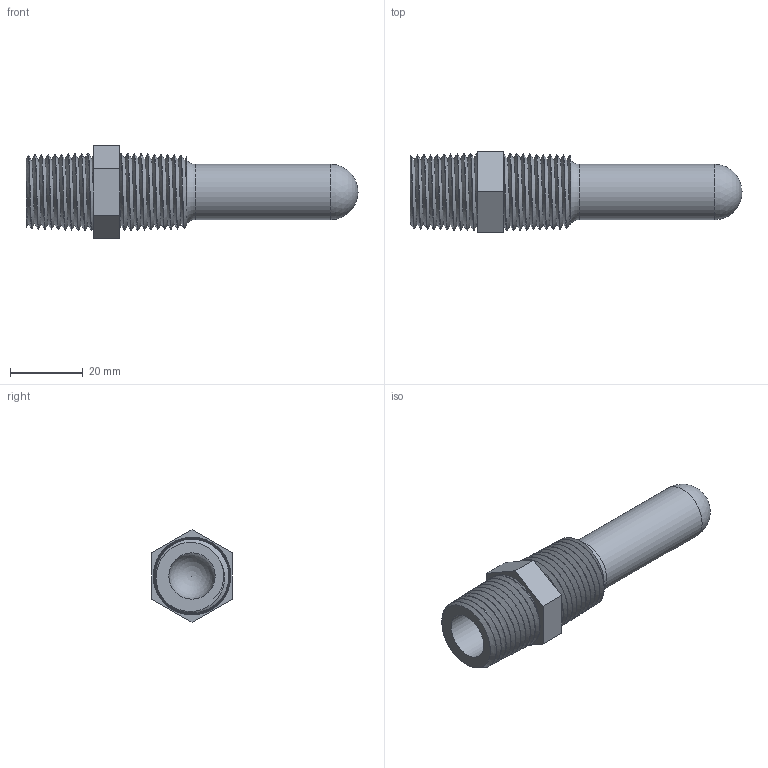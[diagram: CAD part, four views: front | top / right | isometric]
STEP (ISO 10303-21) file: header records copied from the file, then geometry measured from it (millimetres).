
FILE_DESCRIPTION(/* description */ (''),/* implementation_level */ '2;1');
FILE_NAME(/* name */ 'R:\Temp\J. Narvaez\IAN DRAWINGS\002 - Sensors\005 - MCS-WELL\14-006-1_2-DB.stp',/* time_stamp */ '2022-11-14T09:49:49-05:00',/* author */ ('mjeter'),/* organization */ ('unknown'),/* preprocessor_version */ 'ST-DEVELOPER v19',/* originating_system */ 'Autodesk Inventor 2023',/* authorisation */ '');
FILE_SCHEMA (('AUTOMOTIVE_DESIGN { 1 0 10303 214 3 1 1 }'));
Length unit declared in the file: inch
Products named in the file (1): 14-006-1_2-DB
Bounding box: 91.06 x 22 x 25.4 mm (x, y, z)
Volume: 11014.8 mm3; surface area: 10954.2 mm2
Topology: 1 solids, 1 shells, 43 faces, 117 edges, 78 vertices
Faces by surface type: cone 24, plane 10, bspline 4, sphere 2, cylinder 2, torus 1
Full cylindrical faces by diameter (mm): 12.7 x1, 15.24 x1
Entity records: 10604 total; most frequent: CARTESIAN_POINT 9573, ORIENTED_EDGE 230, DIRECTION 156, EDGE_CURVE 115, VERTEX_POINT 78, AXIS2_PLACEMENT_3D 57, B_SPLINE_CURVE_WITH_KNOTS 56, EDGE_LOOP 47
